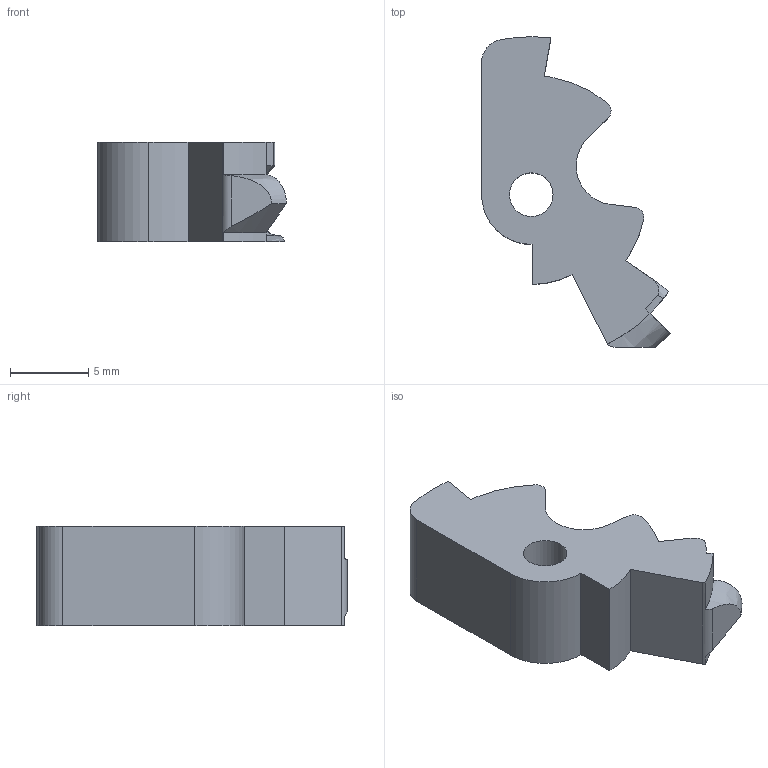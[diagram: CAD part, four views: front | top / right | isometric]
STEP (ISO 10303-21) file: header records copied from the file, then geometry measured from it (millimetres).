
FILE_DESCRIPTION(/* description */ ('STEP AP242','CAx-IF Rec.Pracs.---Representation and Presentation of Product Manufacturing Information (PMI)---4.0---2014-10-13','CAx-IF Rec.Pracs.---3D Tessellated Geometry---0.4---2014-09-14','2;1'),/* implementation_level */ '2;1');
FILE_NAME(/* name */ '61ff3fc9b206e22c6873e72b',/* time_stamp */ '2022-02-06T03:26:01+00:00',/* author */ (''),/* organization */ (''),/* preprocessor_version */ 'ST-DEVELOPER v18.101',/* originating_system */ ' ',/* authorisation */ ' ');
FILE_SCHEMA (('AP242_MANAGED_MODEL_BASED_3D_ENGINEERING_MIM_LF { 1 0 10303 442 1 1 4 }'));
Length unit declared in the file: metre
Products named in the file (1): FRT Safety Lever
Bounding box: 12.07 x 19.86 x 6.38 mm (x, y, z)
Volume: 719.2 mm3; surface area: 665.8 mm2
Topology: 1 solids, 1 shells, 35 faces, 113 edges, 80 vertices
Faces by surface type: cylinder 16, plane 13, bspline 4, cone 1, torus 1
Full cylindrical faces by diameter (mm): 2.794 x1
Entity records: 1425 total; most frequent: CARTESIAN_POINT 439, ORIENTED_EDGE 224, DIRECTION 177, EDGE_CURVE 112, VERTEX_POINT 80, AXIS2_PLACEMENT_3D 67, LINE 43, VECTOR 43
